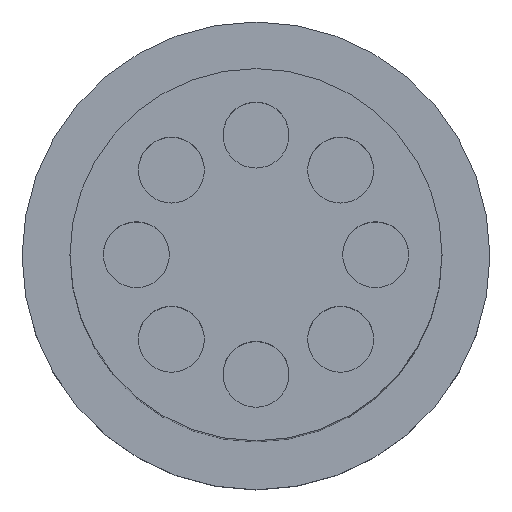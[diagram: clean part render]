
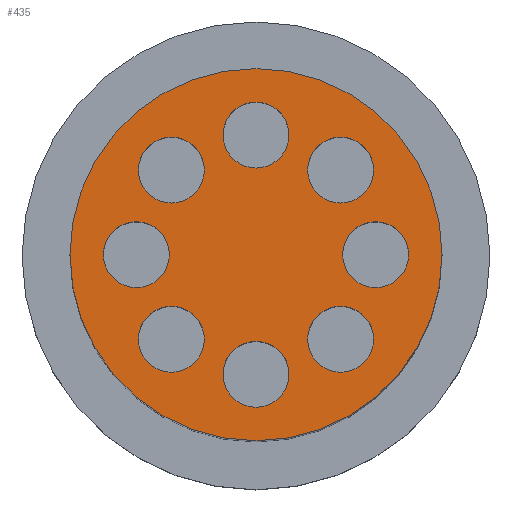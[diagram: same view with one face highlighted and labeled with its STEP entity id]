
A CAD part, top view. The second image highlights one B-rep face of the part: STEP entity #435.
In plain terms, the highlighted planar face has unit normal (0, 0, 1).
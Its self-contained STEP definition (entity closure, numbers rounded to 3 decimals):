
#15=FACE_BOUND('',#113,.T.);
#16=FACE_BOUND('',#114,.T.);
#17=FACE_BOUND('',#115,.T.);
#18=FACE_BOUND('',#116,.T.);
#19=FACE_BOUND('',#117,.T.);
#20=FACE_BOUND('',#118,.T.);
#21=FACE_BOUND('',#119,.T.);
#22=FACE_BOUND('',#120,.T.);
#45=PLANE('',#512);
#77=FACE_OUTER_BOUND('',#112,.T.);
#112=EDGE_LOOP('',(#358));
#113=EDGE_LOOP('',(#359));
#114=EDGE_LOOP('',(#360));
#115=EDGE_LOOP('',(#361));
#116=EDGE_LOOP('',(#362));
#117=EDGE_LOOP('',(#363));
#118=EDGE_LOOP('',(#364));
#119=EDGE_LOOP('',(#365));
#120=EDGE_LOOP('',(#366));
#169=CIRCLE('',#457,3.1);
#171=CIRCLE('',#461,3.1);
#173=CIRCLE('',#465,3.1);
#175=CIRCLE('',#469,3.1);
#177=CIRCLE('',#473,3.1);
#179=CIRCLE('',#477,3.1);
#181=CIRCLE('',#481,3.1);
#183=CIRCLE('',#485,3.1);
#197=CIRCLE('',#513,17.5);
#203=VERTEX_POINT('',#684);
#205=VERTEX_POINT('',#691);
#207=VERTEX_POINT('',#698);
#209=VERTEX_POINT('',#705);
#211=VERTEX_POINT('',#712);
#213=VERTEX_POINT('',#719);
#215=VERTEX_POINT('',#726);
#217=VERTEX_POINT('',#733);
#231=VERTEX_POINT('',#782);
#237=EDGE_CURVE('',#203,#203,#169,.T.);
#240=EDGE_CURVE('',#205,#205,#171,.T.);
#243=EDGE_CURVE('',#207,#207,#173,.T.);
#246=EDGE_CURVE('',#209,#209,#175,.T.);
#249=EDGE_CURVE('',#211,#211,#177,.T.);
#252=EDGE_CURVE('',#213,#213,#179,.T.);
#255=EDGE_CURVE('',#215,#215,#181,.T.);
#258=EDGE_CURVE('',#217,#217,#183,.T.);
#279=EDGE_CURVE('',#231,#231,#197,.T.);
#358=ORIENTED_EDGE('',*,*,#279,.F.);
#359=ORIENTED_EDGE('',*,*,#237,.T.);
#360=ORIENTED_EDGE('',*,*,#240,.T.);
#361=ORIENTED_EDGE('',*,*,#243,.T.);
#362=ORIENTED_EDGE('',*,*,#246,.T.);
#363=ORIENTED_EDGE('',*,*,#249,.T.);
#364=ORIENTED_EDGE('',*,*,#252,.T.);
#365=ORIENTED_EDGE('',*,*,#255,.T.);
#366=ORIENTED_EDGE('',*,*,#258,.T.);
#435=ADVANCED_FACE('',(#77,#15,#16,#17,#18,#19,#20,#21,#22),#45,.T.);
#457=AXIS2_PLACEMENT_3D('',#685,#529,#530);
#461=AXIS2_PLACEMENT_3D('',#692,#538,#539);
#465=AXIS2_PLACEMENT_3D('',#699,#547,#548);
#469=AXIS2_PLACEMENT_3D('',#706,#556,#557);
#473=AXIS2_PLACEMENT_3D('',#713,#565,#566);
#477=AXIS2_PLACEMENT_3D('',#720,#574,#575);
#481=AXIS2_PLACEMENT_3D('',#727,#583,#584);
#485=AXIS2_PLACEMENT_3D('',#734,#592,#593);
#512=AXIS2_PLACEMENT_3D('',#781,#653,#654);
#513=AXIS2_PLACEMENT_3D('',#783,#655,#656);
#529=DIRECTION('center_axis',(0.,0.,-1.));
#530=DIRECTION('ref_axis',(-1.,0.,0.));
#538=DIRECTION('center_axis',(0.,0.,-1.));
#539=DIRECTION('ref_axis',(-1.,0.,0.));
#547=DIRECTION('center_axis',(0.,0.,-1.));
#548=DIRECTION('ref_axis',(-1.,0.,0.));
#556=DIRECTION('center_axis',(0.,0.,-1.));
#557=DIRECTION('ref_axis',(-1.,0.,0.));
#565=DIRECTION('center_axis',(0.,0.,-1.));
#566=DIRECTION('ref_axis',(-1.,0.,0.));
#574=DIRECTION('center_axis',(0.,0.,-1.));
#575=DIRECTION('ref_axis',(-1.,0.,0.));
#583=DIRECTION('center_axis',(0.,0.,-1.));
#584=DIRECTION('ref_axis',(-1.,0.,0.));
#592=DIRECTION('center_axis',(0.,0.,-1.));
#593=DIRECTION('ref_axis',(-1.,0.,0.));
#653=DIRECTION('center_axis',(0.,0.,1.));
#654=DIRECTION('ref_axis',(1.,0.,0.));
#655=DIRECTION('center_axis',(0.,0.,-1.));
#656=DIRECTION('ref_axis',(1.,0.,0.));
#684=CARTESIAN_POINT('',(11.055,-144.708,82.706));
#685=CARTESIAN_POINT('Origin',(7.955,-144.708,82.706));
#691=CARTESIAN_POINT('',(-4.855,-128.798,82.706));
#692=CARTESIAN_POINT('Origin',(-7.955,-128.798,82.706));
#698=CARTESIAN_POINT('',(-8.15,-136.753,82.706));
#699=CARTESIAN_POINT('Origin',(-11.25,-136.753,82.706));
#705=CARTESIAN_POINT('',(14.35,-136.753,82.706));
#706=CARTESIAN_POINT('Origin',(11.25,-136.753,82.706));
#712=CARTESIAN_POINT('',(3.1,-148.003,82.706));
#713=CARTESIAN_POINT('Origin',(0.,-148.003,
82.706));
#719=CARTESIAN_POINT('',(3.1,-125.503,82.706));
#720=CARTESIAN_POINT('Origin',(0.,-125.503,
82.706));
#726=CARTESIAN_POINT('',(-4.855,-144.708,82.706));
#727=CARTESIAN_POINT('Origin',(-7.955,-144.708,82.706));
#733=CARTESIAN_POINT('',(11.055,-128.798,82.706));
#734=CARTESIAN_POINT('Origin',(7.955,-128.798,82.706));
#781=CARTESIAN_POINT('Origin',(0.,-119.253,82.706));
#782=CARTESIAN_POINT('',(0.,-154.253,82.706));
#783=CARTESIAN_POINT('Origin',(0.,-136.753,82.706));
